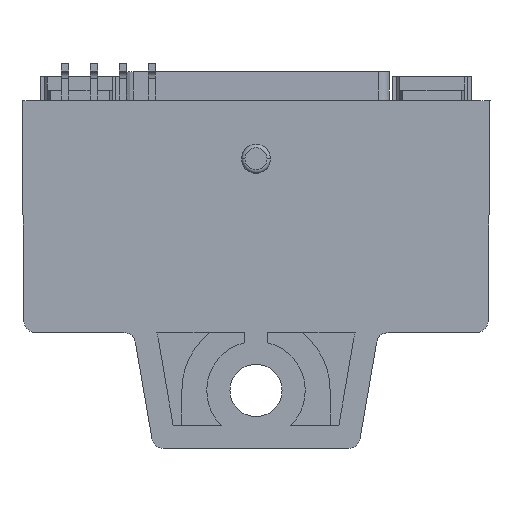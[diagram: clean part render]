
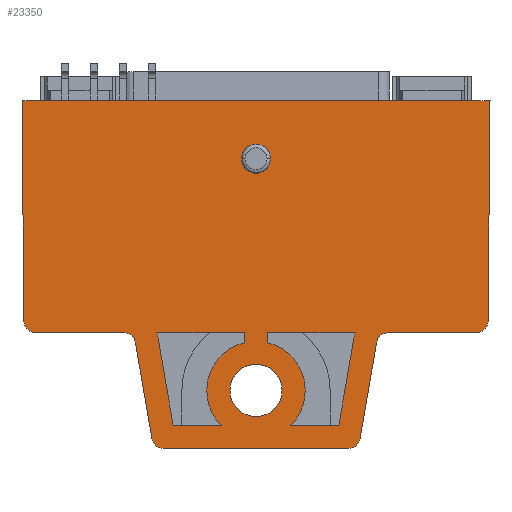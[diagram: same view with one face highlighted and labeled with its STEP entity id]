
A CAD part, front view. The second image highlights one B-rep face of the part: STEP entity #23350.
In plain terms, the highlighted planar face has unit normal (0, -1, 0).
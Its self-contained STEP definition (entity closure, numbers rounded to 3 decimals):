
#9610=CARTESIAN_POINT('',(-11.4,-15.15,20.));
#9620=VERTEX_POINT('',#9610);
#9650=CARTESIAN_POINT('',(0.,-15.15,20.));
#9660=DIRECTION('',(1.,0.,0.));
#9670=VECTOR('',#9660,1.);
#9680=LINE('',#9650,#9670);
#9690=CARTESIAN_POINT('',(-19.034,-15.15,20.));
#9700=VERTEX_POINT('',#9690);
#9710=EDGE_CURVE('',#9700,#9620,#9680,.T.);
#9930=CARTESIAN_POINT('',(19.034,-15.15,20.));
#9940=VERTEX_POINT('',#9930);
#9970=CARTESIAN_POINT('',(0.,-15.15,20.));
#9980=DIRECTION('',(1.,0.,0.));
#9990=VECTOR('',#9980,1.);
#10000=LINE('',#9970,#9990);
#10010=CARTESIAN_POINT('',(11.4,-15.15,20.));
#10020=VERTEX_POINT('',#10010);
#10030=EDGE_CURVE('',#10020,#9940,#10000,.T.);
#20800=CARTESIAN_POINT('',(11.4,-15.15,21.));
#20810=DIRECTION('',(0.,1.,0.));
#20820=DIRECTION('',(1.,0.,0.));
#20830=AXIS2_PLACEMENT_3D('',#20800,#20810,#20820);
#20840=CIRCLE('',#20830,1.);
#20850=CARTESIAN_POINT('',(10.414,-15.15,20.831));
#20860=VERTEX_POINT('',#20850);
#20870=EDGE_CURVE('',#10020,#20860,#20840,.T.);
#20980=CARTESIAN_POINT('',(-20.442,-15.15,0.));
#20990=DIRECTION('',(-0.,1.,0.));
#21000=DIRECTION('',(1.,0.,0.));
#21010=AXIS2_PLACEMENT_3D('',#20980,#20990,#21000);
#21020=PLANE('',#21010);
#21030=CARTESIAN_POINT('',(20.2,-15.15,0.));
#21040=DIRECTION('',(0.009,0.,-1.));
#21050=VECTOR('',#21040,1.);
#21060=LINE('',#21030,#21050);
#21070=CARTESIAN_POINT('',(20.034,-15.15,19.009));
#21080=VERTEX_POINT('',#21070);
#21090=CARTESIAN_POINT('',(20.2,-15.15,0.));
#21100=VERTEX_POINT('',#21090);
#21110=EDGE_CURVE('',#21080,#21100,#21060,.T.);
#21120=ORIENTED_EDGE('',*,*,#21110,.F.);
#21130=CARTESIAN_POINT('',(0.,-15.15,0.));
#21140=DIRECTION('',(-1.,0.,0.));
#21150=VECTOR('',#21140,1.);
#21160=LINE('',#21130,#21150);
#21170=CARTESIAN_POINT('',(-20.2,-15.15,0.));
#21180=VERTEX_POINT('',#21170);
#21190=EDGE_CURVE('',#21100,#21180,#21160,.T.);
#21200=ORIENTED_EDGE('',*,*,#21190,.F.);
#21210=CARTESIAN_POINT('',(-20.2,-15.15,0.));
#21220=DIRECTION('',(0.009,0.,1.));
#21230=VECTOR('',#21220,1.);
#21240=LINE('',#21210,#21230);
#21250=CARTESIAN_POINT('',(-20.034,-15.15,19.009));
#21260=VERTEX_POINT('',#21250);
#21270=EDGE_CURVE('',#21180,#21260,#21240,.T.);
#21280=ORIENTED_EDGE('',*,*,#21270,.F.);
#21290=CARTESIAN_POINT('',(-19.034,-15.15,19.));
#21300=DIRECTION('',(0.,1.,0.));
#21310=DIRECTION('',(-1.,0.,0.));
#21320=AXIS2_PLACEMENT_3D('',#21290,#21300,#21310);
#21330=CIRCLE('',#21320,1.);
#21340=EDGE_CURVE('',#21260,#9700,#21330,.T.);
#21350=ORIENTED_EDGE('',*,*,#21340,.F.);
#21360=ORIENTED_EDGE('',*,*,#9710,.F.);
#21370=CARTESIAN_POINT('',(-11.4,-15.15,21.));
#21380=DIRECTION('',(0.,1.,0.));
#21390=DIRECTION('',(1.,0.,0.));
#21400=AXIS2_PLACEMENT_3D('',#21370,#21380,#21390);
#21410=CIRCLE('',#21400,1.);
#21420=CARTESIAN_POINT('',(-10.414,-15.15,20.831));
#21430=VERTEX_POINT('',#21420);
#21440=EDGE_CURVE('',#21430,#9620,#21410,.T.);
#21450=ORIENTED_EDGE('',*,*,#21440,.T.);
#21460=CARTESIAN_POINT('',(-13.984,-15.15,0.));
#21470=DIRECTION('',(0.169,0.,0.986));
#21480=VECTOR('',#21470,1.);
#21490=LINE('',#21460,#21480);
#21500=CARTESIAN_POINT('',(-8.986,-15.15,29.169));
#21510=VERTEX_POINT('',#21500);
#21520=EDGE_CURVE('',#21430,#21510,#21490,.T.);
#21530=ORIENTED_EDGE('',*,*,#21520,.F.);
#21540=CARTESIAN_POINT('',(-8.,-15.15,29.));
#21550=DIRECTION('',(0.,1.,0.));
#21560=DIRECTION('',(-1.,0.,0.));
#21570=AXIS2_PLACEMENT_3D('',#21540,#21550,#21560);
#21580=CIRCLE('',#21570,1.);
#21590=CARTESIAN_POINT('',(-8.,-15.15,30.));
#21600=VERTEX_POINT('',#21590);
#21610=EDGE_CURVE('',#21510,#21600,#21580,.T.);
#21620=ORIENTED_EDGE('',*,*,#21610,.F.);
#21630=CARTESIAN_POINT('',(0.,-15.15,30.));
#21640=DIRECTION('',(1.,0.,0.));
#21650=VECTOR('',#21640,1.);
#21660=LINE('',#21630,#21650);
#21670=CARTESIAN_POINT('',(8.,-15.15,30.));
#21680=VERTEX_POINT('',#21670);
#21690=EDGE_CURVE('',#21600,#21680,#21660,.T.);
#21700=ORIENTED_EDGE('',*,*,#21690,.F.);
#21710=CARTESIAN_POINT('',(8.,-15.15,29.));
#21720=DIRECTION('',(0.,1.,0.));
#21730=DIRECTION('',(-1.,0.,0.));
#21740=AXIS2_PLACEMENT_3D('',#21710,#21720,#21730);
#21750=CIRCLE('',#21740,1.);
#21760=CARTESIAN_POINT('',(8.986,-15.15,29.169));
#21770=VERTEX_POINT('',#21760);
#21780=EDGE_CURVE('',#21680,#21770,#21750,.T.);
#21790=ORIENTED_EDGE('',*,*,#21780,.F.);
#21800=CARTESIAN_POINT('',(13.984,-15.15,0.));
#21810=DIRECTION('',(0.169,0.,-0.986));
#21820=VECTOR('',#21810,1.);
#21830=LINE('',#21800,#21820);
#21840=EDGE_CURVE('',#21770,#20860,#21830,.T.);
#21850=ORIENTED_EDGE('',*,*,#21840,.F.);
#21860=ORIENTED_EDGE('',*,*,#20870,.T.);
#21870=ORIENTED_EDGE('',*,*,#10030,.F.);
#21880=CARTESIAN_POINT('',(19.034,-15.15,19.));
#21890=DIRECTION('',(0.,1.,0.));
#21900=DIRECTION('',(1.,0.,0.));
#21910=AXIS2_PLACEMENT_3D('',#21880,#21890,#21900);
#21920=CIRCLE('',#21910,1.);
#21930=EDGE_CURVE('',#9940,#21080,#21920,.T.);
#21940=ORIENTED_EDGE('',*,*,#21930,.F.);
#21950=EDGE_LOOP('',(#21940,#21870,#21860,#21850,#21790,#21700,#21620,
#21530,#21450,#21360,#21350,#21280,#21200,#21120));
#21960=FACE_OUTER_BOUND('',#21950,.T.);
#21970=CARTESIAN_POINT('',(0.,-15.15,5.));
#21980=DIRECTION('',(0.,-1.,0.));
#21990=DIRECTION('',(1.,0.,0.));
#22000=AXIS2_PLACEMENT_3D('',#21970,#21980,#21990);
#22010=CIRCLE('',#22000,1.25);
#22020=CARTESIAN_POINT('',(0.,-15.15,3.75));
#22030=VERTEX_POINT('',#22020);
#22040=CARTESIAN_POINT('',(1.25,-15.15,5.));
#22050=VERTEX_POINT('',#22040);
#22060=EDGE_CURVE('',#22030,#22050,#22010,.T.);
#22070=ORIENTED_EDGE('',*,*,#22060,.F.);
#22080=CARTESIAN_POINT('',(-1.25,-15.15,5.));
#22090=VERTEX_POINT('',#22080);
#22100=EDGE_CURVE('',#22050,#22090,#22010,.T.);
#22110=ORIENTED_EDGE('',*,*,#22100,.F.);
#22120=EDGE_CURVE('',#22090,#22030,#22010,.T.);
#22130=ORIENTED_EDGE('',*,*,#22120,.F.);
#22140=EDGE_LOOP('',(#22130,#22110,#22070));
#22150=FACE_BOUND('',#22140,.T.);
#22160=CARTESIAN_POINT('',(0.,-15.15,20.));
#22170=DIRECTION('',(1.,0.,0.));
#22180=VECTOR('',#22170,1.);
#22190=LINE('',#22160,#22180);
#22200=CARTESIAN_POINT('',(-8.572,-15.15,20.));
#22210=VERTEX_POINT('',#22200);
#22220=CARTESIAN_POINT('',(-1.,-15.15,20.));
#22230=VERTEX_POINT('',#22220);
#22240=EDGE_CURVE('',#22210,#22230,#22190,.T.);
#22250=ORIENTED_EDGE('',*,*,#22240,.F.);
#22260=CARTESIAN_POINT('',(-1.,-15.15,0.));
#22270=DIRECTION('',(0.,0.,1.));
#22280=VECTOR('',#22270,1.);
#22290=LINE('',#22260,#22280);
#22300=CARTESIAN_POINT('',(-1.,-15.15,20.869));
#22310=VERTEX_POINT('',#22300);
#22320=EDGE_CURVE('',#22230,#22310,#22290,.T.);
#22330=ORIENTED_EDGE('',*,*,#22320,.F.);
#22340=CARTESIAN_POINT('',(0.,-15.15,25.));
#22350=DIRECTION('',(0.,1.,0.));
#22360=DIRECTION('',(-1.,0.,0.));
#22370=AXIS2_PLACEMENT_3D('',#22340,#22350,#22360);
#22380=CIRCLE('',#22370,4.25);
#22390=CARTESIAN_POINT('',(-3.01,-15.15,28.));
#22400=VERTEX_POINT('',#22390);
#22410=EDGE_CURVE('',#22310,#22400,#22380,.T.);
#22420=ORIENTED_EDGE('',*,*,#22410,.F.);
#22430=CARTESIAN_POINT('',(0.,-15.15,28.));
#22440=DIRECTION('',(-1.,0.,0.));
#22450=VECTOR('',#22440,1.);
#22460=LINE('',#22430,#22450);
#22470=CARTESIAN_POINT('',(-7.157,-15.15,28.));
#22480=VERTEX_POINT('',#22470);
#22490=EDGE_CURVE('',#22400,#22480,#22460,.T.);
#22500=ORIENTED_EDGE('',*,*,#22490,.F.);
#22510=CARTESIAN_POINT('',(-11.955,-15.15,0.));
#22520=DIRECTION('',(-0.169,0.,-0.986));
#22530=VECTOR('',#22520,1.);
#22540=LINE('',#22510,#22530);
#22550=CARTESIAN_POINT('',(-8.443,-15.15,20.493));
#22560=VERTEX_POINT('',#22550);
#22570=EDGE_CURVE('',#22480,#22560,#22540,.T.);
#22580=ORIENTED_EDGE('',*,*,#22570,.F.);
#22590=CARTESIAN_POINT('',(-11.4,-15.15,21.));
#22600=DIRECTION('',(0.,1.,0.));
#22610=DIRECTION('',(-1.,0.,0.));
#22620=AXIS2_PLACEMENT_3D('',#22590,#22600,#22610);
#22630=CIRCLE('',#22620,3.);
#22640=EDGE_CURVE('',#22560,#22210,#22630,.T.);
#22650=ORIENTED_EDGE('',*,*,#22640,.F.);
#22660=EDGE_LOOP('',(#22650,#22580,#22500,#22420,#22330,#22250));
#22670=FACE_BOUND('',#22660,.T.);
#22680=CARTESIAN_POINT('',(1.,-15.15,0.));
#22690=DIRECTION('',(0.,0.,-1.));
#22700=VECTOR('',#22690,1.);
#22710=LINE('',#22680,#22700);
#22720=CARTESIAN_POINT('',(1.,-15.15,20.869));
#22730=VERTEX_POINT('',#22720);
#22740=CARTESIAN_POINT('',(1.,-15.15,20.));
#22750=VERTEX_POINT('',#22740);
#22760=EDGE_CURVE('',#22730,#22750,#22710,.T.);
#22770=ORIENTED_EDGE('',*,*,#22760,.F.);
#22780=CARTESIAN_POINT('',(0.,-15.15,20.));
#22790=DIRECTION('',(1.,0.,0.));
#22800=VECTOR('',#22790,1.);
#22810=LINE('',#22780,#22800);
#22820=CARTESIAN_POINT('',(8.572,-15.15,20.));
#22830=VERTEX_POINT('',#22820);
#22840=EDGE_CURVE('',#22750,#22830,#22810,.T.);
#22850=ORIENTED_EDGE('',*,*,#22840,.F.);
#22860=CARTESIAN_POINT('',(11.4,-15.15,21.));
#22870=DIRECTION('',(0.,1.,0.));
#22880=DIRECTION('',(-1.,0.,0.));
#22890=AXIS2_PLACEMENT_3D('',#22860,#22870,#22880);
#22900=CIRCLE('',#22890,3.);
#22910=CARTESIAN_POINT('',(8.443,-15.15,20.493));
#22920=VERTEX_POINT('',#22910);
#22930=EDGE_CURVE('',#22830,#22920,#22900,.T.);
#22940=ORIENTED_EDGE('',*,*,#22930,.F.);
#22950=CARTESIAN_POINT('',(11.955,-15.15,0.));
#22960=DIRECTION('',(-0.169,0.,0.986));
#22970=VECTOR('',#22960,1.);
#22980=LINE('',#22950,#22970);
#22990=CARTESIAN_POINT('',(7.157,-15.15,28.));
#23000=VERTEX_POINT('',#22990);
#23010=EDGE_CURVE('',#22920,#23000,#22980,.T.);
#23020=ORIENTED_EDGE('',*,*,#23010,.F.);
#23030=CARTESIAN_POINT('',(0.,-15.15,28.));
#23040=DIRECTION('',(-1.,0.,0.));
#23050=VECTOR('',#23040,1.);
#23060=LINE('',#23030,#23050);
#23070=CARTESIAN_POINT('',(3.01,-15.15,28.));
#23080=VERTEX_POINT('',#23070);
#23090=EDGE_CURVE('',#23000,#23080,#23060,.T.);
#23100=ORIENTED_EDGE('',*,*,#23090,.F.);
#23110=CARTESIAN_POINT('',(0.,-15.15,25.));
#23120=DIRECTION('',(0.,1.,0.));
#23130=DIRECTION('',(-1.,0.,0.));
#23140=AXIS2_PLACEMENT_3D('',#23110,#23120,#23130);
#23150=CIRCLE('',#23140,4.25);
#23160=EDGE_CURVE('',#23080,#22730,#23150,.T.);
#23170=ORIENTED_EDGE('',*,*,#23160,.F.);
#23180=EDGE_LOOP('',(#23170,#23100,#23020,#22940,#22850,#22770));
#23190=FACE_BOUND('',#23180,.T.);
#23200=CARTESIAN_POINT('',(0.,-15.15,25.));
#23210=DIRECTION('',(0.,1.,0.));
#23220=DIRECTION('',(-1.,0.,0.));
#23230=AXIS2_PLACEMENT_3D('',#23200,#23210,#23220);
#23240=CIRCLE('',#23230,2.25);
#23250=CARTESIAN_POINT('',(-2.25,-15.15,25.));
#23260=VERTEX_POINT('',#23250);
#23270=CARTESIAN_POINT('',(2.25,-15.15,25.));
#23280=VERTEX_POINT('',#23270);
#23290=EDGE_CURVE('',#23260,#23280,#23240,.T.);
#23300=ORIENTED_EDGE('',*,*,#23290,.T.);
#23310=EDGE_CURVE('',#23280,#23260,#23240,.T.);
#23320=ORIENTED_EDGE('',*,*,#23310,.T.);
#23330=EDGE_LOOP('',(#23320,#23300));
#23340=FACE_BOUND('',#23330,.T.);
#23350=ADVANCED_FACE('',(#21960,#22150,#22670,#23190,#23340),#21020,.F.)
;
